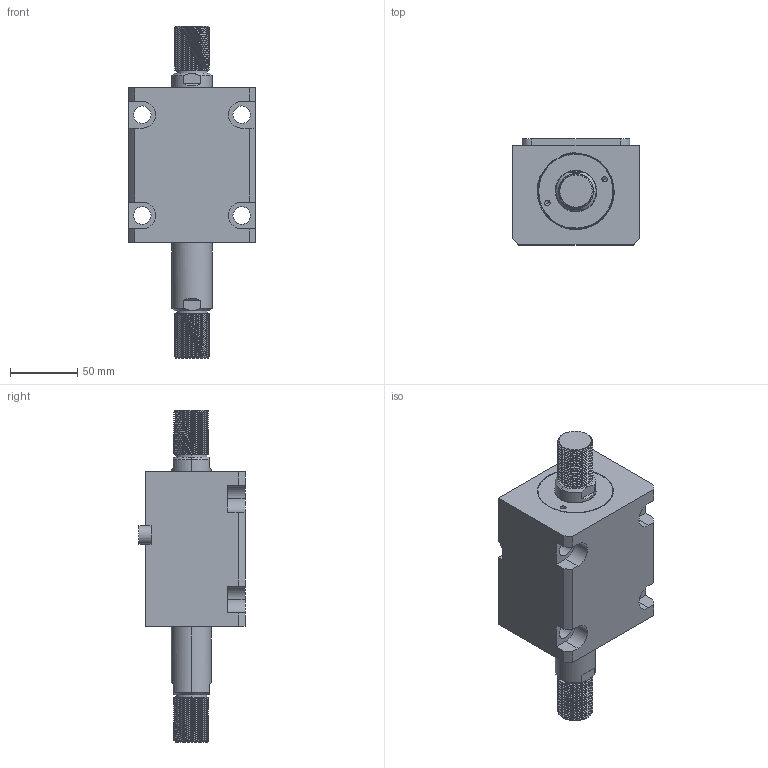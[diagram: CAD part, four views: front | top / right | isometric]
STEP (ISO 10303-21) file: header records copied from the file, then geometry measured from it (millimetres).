
FILE_DESCRIPTION (( 'STEP AP203' ), '1' );
FILE_NAME ('CHTB-LWM50-40W.STEP', '2018-05-22T08:10:33', ( '' ), ( '' ), 'SwSTEP 2.0', 'SolidWorks 2015', '' );
FILE_SCHEMA (( 'CONFIG_CONTROL_DESIGN' ));
Length unit declared in the file: millimetre
Products named in the file (4): CHTB-LWM50-40W; 活塞杆LWM50-40W; 掛极LWM50-40W; CHTM-SDMA50QG
Assembly tree (3 placements, depth 2):
  CHTB-LWM50-40W
    掛极LWM50-40W
    活塞杆LWM50-40W
    CHTM-SDMA50QG
Bounding box: 94 x 79 x 247 mm (x, y, z)
Volume: 774466.6 mm3; surface area: 126870.3 mm2
Topology: 3 solids, 3 shells, 302 faces, 837 edges, 557 vertices
Faces by surface type: cylinder 188, plane 62, cone 18, bspline 18, torus 16
Entity records: 19248 total; most frequent: CARTESIAN_POINT 11864, ORIENTED_EDGE 1666, DIRECTION 1265, EDGE_CURVE 833, VERTEX_POINT 557, AXIS2_PLACEMENT_3D 483, EDGE_LOOP 338, FACE_OUTER_BOUND 302
